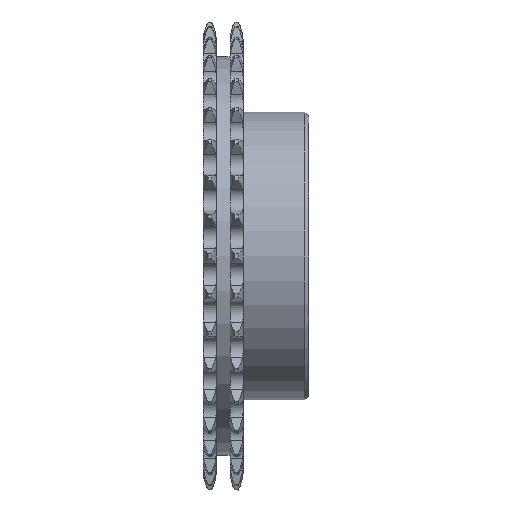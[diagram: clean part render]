
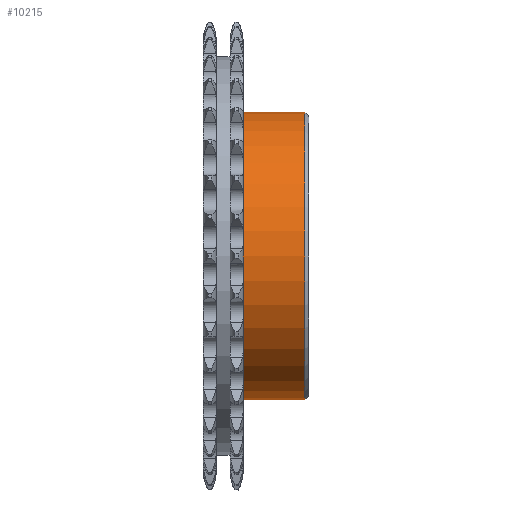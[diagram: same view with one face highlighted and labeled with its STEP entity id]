
A CAD part, front view. The second image highlights one B-rep face of the part: STEP entity #10215.
In plain terms, the highlighted cylindrical face has radius 30 mm (diameter 60 mm), a full revolution.
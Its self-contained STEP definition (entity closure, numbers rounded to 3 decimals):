
#1104=CYLINDRICAL_SURFACE('',#11316,30.);
#1646=FACE_OUTER_BOUND('',#2200,.T.);
#2200=EDGE_LOOP('',(#9589,#9590,#9591,#9592));
#2739=CIRCLE('',#11315,30.);
#2740=CIRCLE('',#11317,30.);
#3224=LINE('',#20019,#3707);
#3707=VECTOR('',#13954,30.);
#4779=VERTEX_POINT('',#20014);
#4780=VERTEX_POINT('',#20017);
#6385=EDGE_CURVE('',#4779,#4779,#2739,.T.);
#6386=EDGE_CURVE('',#4780,#4780,#2740,.T.);
#6387=EDGE_CURVE('',#4780,#4779,#3224,.T.);
#9589=ORIENTED_EDGE('',*,*,#6386,.F.);
#9590=ORIENTED_EDGE('',*,*,#6387,.T.);
#9591=ORIENTED_EDGE('',*,*,#6385,.T.);
#9592=ORIENTED_EDGE('',*,*,#6387,.F.);
#10215=ADVANCED_FACE('',(#1646),#1104,.T.);
#11315=AXIS2_PLACEMENT_3D('',#20015,#13948,#13949);
#11316=AXIS2_PLACEMENT_3D('',#20016,#13950,#13951);
#11317=AXIS2_PLACEMENT_3D('',#20018,#13952,#13953);
#13948=DIRECTION('center_axis',(1.,0.,0.));
#13949=DIRECTION('ref_axis',(0.,0.,-1.));
#13950=DIRECTION('center_axis',(1.,0.,0.));
#13951=DIRECTION('ref_axis',(0.,1.,0.));
#13952=DIRECTION('center_axis',(1.,0.,0.));
#13953=DIRECTION('ref_axis',(0.,0.,-1.));
#13954=DIRECTION('',(-1.,0.,0.));
#20014=CARTESIAN_POINT('',(8.3,-30.,0.));
#20015=CARTESIAN_POINT('Origin',(8.3,0.,0.));
#20016=CARTESIAN_POINT('Origin',(14.75,0.,0.));
#20017=CARTESIAN_POINT('',(21.2,-30.,0.));
#20018=CARTESIAN_POINT('Origin',(21.2,0.,0.));
#20019=CARTESIAN_POINT('',(14.75,-30.,0.));
